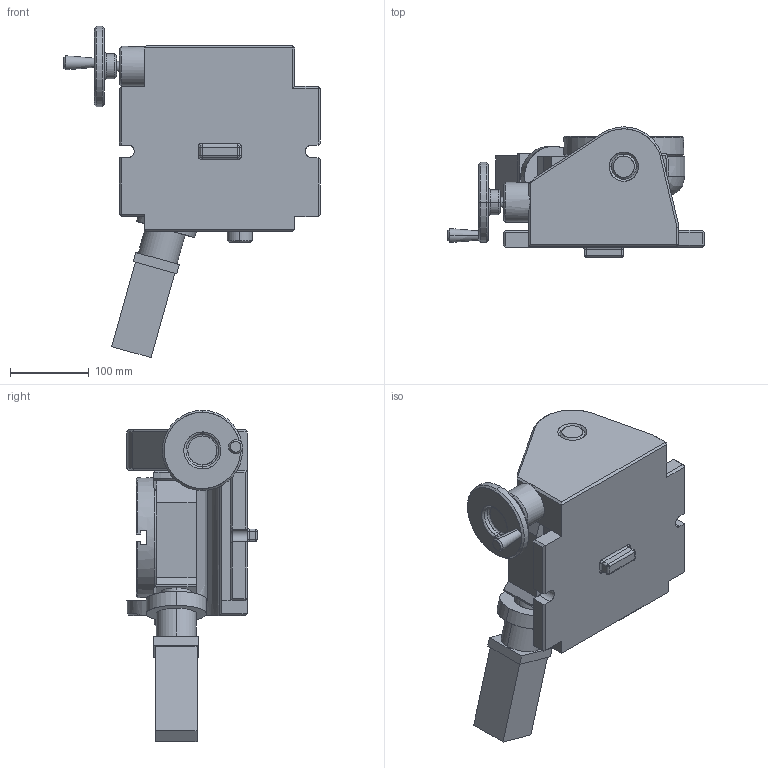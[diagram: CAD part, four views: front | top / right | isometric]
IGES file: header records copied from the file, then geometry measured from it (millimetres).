
Start section: SolidWorks IGES file using analytic representation for surfaces
Global section: file name: U:\SOLIDWORKS HOLDING FILE\WORKHOLDING\PARTS FOR WEBSITE\31847 6 INCH TILTING TABLE\31847 6-INCH TILTING TABLE.IGS; native system: SolidWorks 2012; preprocessor: SolidWorks 2012; author: RTooley; date: 131105.105706; units: inch
Bounding box: 324.23 x 164.84 x 419.51 mm (x, y, z)
Surface area: 448507.7 mm2 (no closed solid volume)
Topology: 0 solids, 0 shells, 330 faces, 4472 edges, 4468 vertices
Faces by surface type: bspline 194, revolution 136
